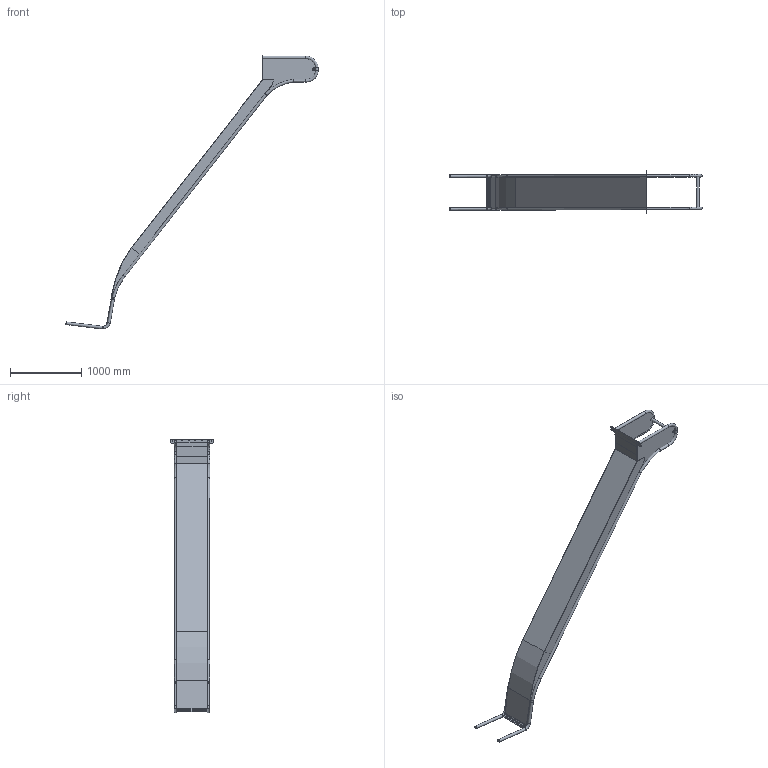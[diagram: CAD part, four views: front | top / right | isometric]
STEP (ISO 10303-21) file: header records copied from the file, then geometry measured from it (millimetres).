
FILE_DESCRIPTION(/* description */ (''),/* implementation_level */ '2;1');
FILE_NAME(/* name */ 'F:\_Inventor\- Tegningsmateriale - kunder\PlayNsafe\PlayNsafe Rutchebaner\120-2400-500 (B500 H2250-2500 med ører)\120-2400-500.stp',/* time_stamp */ '2026-09-08T11:14:11+02:00',/* author */ ('jm'),/* organization */ (''),/* preprocessor_version */ 'ST-DEVELOPER v18.1',/* originating_system */ 'Autodesk Inventor 2022',/* authorisation */ '');
FILE_SCHEMA (('AUTOMOTIVE_DESIGN { 1 0 10303 214 3 1 1 }'));
Length unit declared in the file: millimetre
Products named in the file (11): 120-2400-500; 100-2400-500 indløb; playnsafe udløb; Lb2200 venstre; bund model til step; udløb til LB2200 model til step; 120-2400-1000 øre; monterings plade til model med høje øre; forlængerplade til lang siddeområde; lang siddeområde rør; 120-2400-500 rør
Assembly tree (13 placements, depth 3):
  120-2400-500
    100-2400-500 indløb
    playnsafe udløb
      Lb2200 venstre  x2
      bund model til step
      udløb til LB2200 model til step
    120-2400-1000 øre  x2
    monterings plade til model med høje øre
    forlængerplade til lang siddeområde
    lang siddeområde rør
    120-2400-500 rør  x2
Bounding box: 3543.05 x 595 x 3848.81 mm (x, y, z)
Volume: 21522329.7 mm3; surface area: 8629619.8 mm2
Topology: 12 solids, 12 shells, 284 faces, 667 edges, 410 vertices
Faces by surface type: plane 167, cylinder 92, bspline 11, torus 10, cone 4
Full cylindrical faces by diameter (mm): 2 x2, 6.5 x4, 34 x1, 38 x21
Entity records: 8957 total; most frequent: CARTESIAN_POINT 3087, DIRECTION 1182, ORIENTED_EDGE 1106, EDGE_CURVE 553, AXIS2_PLACEMENT_3D 404, LINE 374, VECTOR 374, VERTEX_POINT 334
